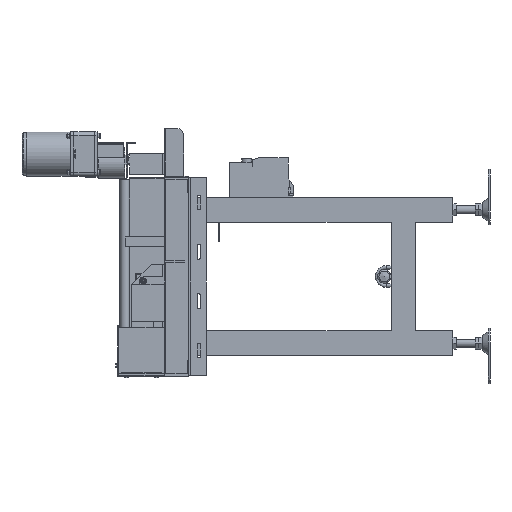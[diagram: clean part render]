
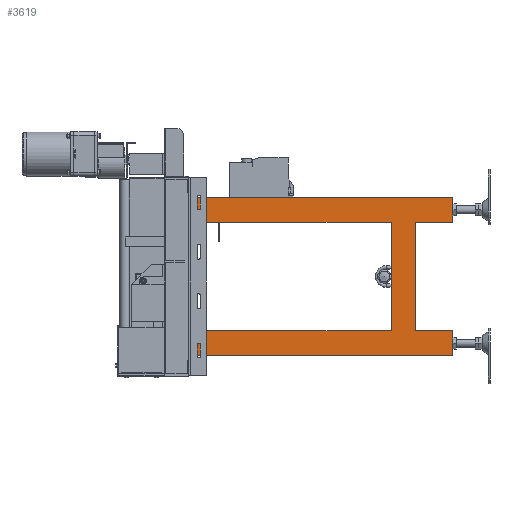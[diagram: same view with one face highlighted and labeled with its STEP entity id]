
A CAD part, left-side view. The second image highlights one B-rep face of the part: STEP entity #3619.
In plain terms, the highlighted planar face has unit normal (-1, 0, 0).
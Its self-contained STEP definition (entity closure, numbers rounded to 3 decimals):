
#3619=ADVANCED_FACE('',(#8525),#8524,.T.);
#8524=PLANE('',#33960);
#8525=FACE_OUTER_BOUND('',#33961,.T.);
#33957=CARTESIAN_POINT('',(10.,-685.,-220.));
#33958=DIRECTION('',(-1.,0.,0.));
#33959=DIRECTION('',(0.,0.,1.));
#33960=AXIS2_PLACEMENT_3D('',#33957,#33958,#33959);
#33961=EDGE_LOOP('',(#49884,#49885,#49886,#49887,#49888,#49889,#49890,#49891,#49892,#49893,#49894,#49895));
#49884=ORIENTED_EDGE('',*,*,#62749,.F.);
#49885=ORIENTED_EDGE('',*,*,#62732,.F.);
#49886=ORIENTED_EDGE('',*,*,#62750,.F.);
#49887=ORIENTED_EDGE('',*,*,#62737,.T.);
#49888=ORIENTED_EDGE('',*,*,#62751,.T.);
#49889=ORIENTED_EDGE('',*,*,#62752,.F.);
#49890=ORIENTED_EDGE('',*,*,#62753,.F.);
#49891=ORIENTED_EDGE('',*,*,#62754,.T.);
#49892=ORIENTED_EDGE('',*,*,#62723,.T.);
#49893=ORIENTED_EDGE('',*,*,#62740,.F.);
#49894=ORIENTED_EDGE('',*,*,#62755,.T.);
#49895=ORIENTED_EDGE('',*,*,#62756,.T.);
#62723=EDGE_CURVE('',#73190,#73204,#73211,.T.);
#62732=EDGE_CURVE('',#73265,#73272,#73273,.T.);
#62737=EDGE_CURVE('',#73285,#73300,#73307,.T.);
#62740=EDGE_CURVE('',#73320,#73204,#73327,.T.);
#62749=EDGE_CURVE('',#73272,#73386,#73387,.T.);
#62750=EDGE_CURVE('',#73285,#73265,#73393,.T.);
#62751=EDGE_CURVE('',#73300,#73399,#73400,.T.);
#62752=EDGE_CURVE('',#73406,#73399,#73407,.T.);
#62753=EDGE_CURVE('',#73413,#73406,#73414,.T.);
#62754=EDGE_CURVE('',#73413,#73190,#73420,.T.);
#62755=EDGE_CURVE('',#73320,#73426,#73427,.T.);
#62756=EDGE_CURVE('',#73426,#73386,#73433,.T.);
#73190=VERTEX_POINT('',#116362);
#73204=VERTEX_POINT('',#116370);
#73211=LINE('',#116374,#116375);
#73265=VERTEX_POINT('',#116404);
#73272=VERTEX_POINT('',#116408);
#73273=LINE('',#116409,#116410);
#73285=VERTEX_POINT('',#116415);
#73300=VERTEX_POINT('',#116424);
#73307=LINE('',#116428,#116429);
#73320=VERTEX_POINT('',#116435);
#73327=LINE('',#116439,#116440);
#73386=VERTEX_POINT('',#116471);
#73387=LINE('',#116472,#116473);
#73393=LINE('',#116475,#116476);
#73399=VERTEX_POINT('',#116478);
#73400=LINE('',#116479,#116480);
#73406=VERTEX_POINT('',#116482);
#73407=LINE('',#116483,#116484);
#73413=VERTEX_POINT('',#116486);
#73414=LINE('',#116487,#116488);
#73420=LINE('',#116490,#116491);
#73426=VERTEX_POINT('',#116493);
#73427=LINE('',#116494,#116495);
#73433=LINE('',#116497,#116498);
#116362=CARTESIAN_POINT('',(10.,-600.,-160.));
#116370=CARTESIAN_POINT('',(10.,-600.,60.));
#116374=CARTESIAN_POINT('',(10.,-600.,-160.));
#116375=VECTOR('',#116376,220.);
#116376=DIRECTION('',(0.,0.,1.));
#116404=CARTESIAN_POINT('',(10.,-550.,60.));
#116408=CARTESIAN_POINT('',(10.,-143.2,60.));
#116409=CARTESIAN_POINT('',(10.,-550.,60.));
#116410=VECTOR('',#116411,406.8);
#116411=DIRECTION('',(0.,1.,0.));
#116415=CARTESIAN_POINT('',(10.,-550.,-160.));
#116424=CARTESIAN_POINT('',(10.,-143.2,-160.));
#116428=CARTESIAN_POINT('',(10.,-550.,-160.));
#116429=VECTOR('',#116430,406.8);
#116430=DIRECTION('',(0.,1.,0.));
#116435=CARTESIAN_POINT('',(10.,-675.,60.));
#116439=CARTESIAN_POINT('',(10.,-675.,60.));
#116440=VECTOR('',#116441,75.);
#116441=DIRECTION('',(0.,1.,0.));
#116471=CARTESIAN_POINT('',(10.,-143.2,110.));
#116472=CARTESIAN_POINT('',(10.,-143.2,60.));
#116473=VECTOR('',#116474,50.);
#116474=DIRECTION('',(0.,0.,1.));
#116475=CARTESIAN_POINT('',(10.,-550.,-160.));
#116476=VECTOR('',#116477,220.);
#116477=DIRECTION('',(0.,0.,1.));
#116478=CARTESIAN_POINT('',(10.,-143.2,-210.));
#116479=CARTESIAN_POINT('',(10.,-143.2,-160.));
#116480=VECTOR('',#116481,50.);
#116481=DIRECTION('',(0.,0.,-1.));
#116482=CARTESIAN_POINT('',(10.,-675.,-210.));
#116483=CARTESIAN_POINT('',(10.,-675.,-210.));
#116484=VECTOR('',#116485,531.8);
#116485=DIRECTION('',(0.,1.,0.));
#116486=CARTESIAN_POINT('',(10.,-675.,-160.));
#116487=CARTESIAN_POINT('',(10.,-675.,-160.));
#116488=VECTOR('',#116489,50.);
#116489=DIRECTION('',(0.,0.,-1.));
#116490=CARTESIAN_POINT('',(10.,-675.,-160.));
#116491=VECTOR('',#116492,75.);
#116492=DIRECTION('',(0.,1.,0.));
#116493=CARTESIAN_POINT('',(10.,-675.,110.));
#116494=CARTESIAN_POINT('',(10.,-675.,60.));
#116495=VECTOR('',#116496,50.);
#116496=DIRECTION('',(0.,0.,1.));
#116497=CARTESIAN_POINT('',(10.,-675.,110.));
#116498=VECTOR('',#116499,531.8);
#116499=DIRECTION('',(0.,1.,0.));
